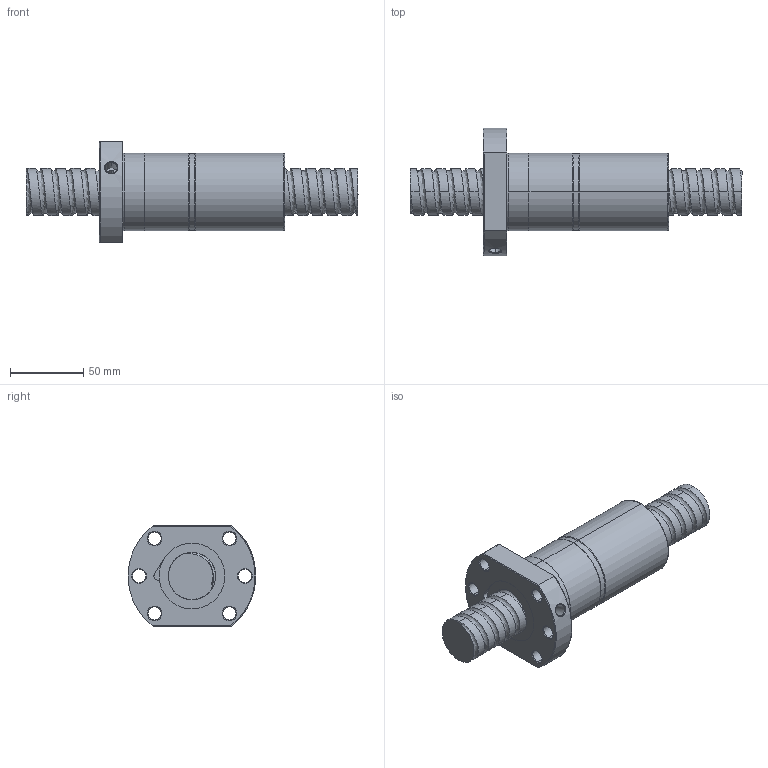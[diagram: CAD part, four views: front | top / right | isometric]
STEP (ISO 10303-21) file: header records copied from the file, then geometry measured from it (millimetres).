
FILE_DESCRIPTION (( 'STEP AP214' ), '1' );
FILE_NAME ('FDDC03210T4-C-C.STEP', '2010-07-06T03:16:46', ( 'XPAUTO' ), ( 'XPAUTO' ), 'SwSTEP 2.0', 'SolidWorks 2007', '' );
FILE_SCHEMA (( 'AUTOMOTIVE_DESIGN' ));
Length unit declared in the file: millimetre
Products named in the file (3): FDDC03210T4-C-C.sldasm-Part-2_預設; FDDC03210T4-C-C.sldasm-Part-1_預設; FDDC03210T4-C-C
Assembly tree (2 placements, depth 2):
  FDDC03210T4-C-C
    FDDC03210T4-C-C.sldasm-Part-2_預設
    FDDC03210T4-C-C.sldasm-Part-1_預設
Bounding box: 226 x 86.7 x 69 mm (x, y, z)
Volume: 386968.5 mm3; surface area: 74214.4 mm2
Topology: 2 solids, 2 shells, 149 faces, 377 edges, 237 vertices
Faces by surface type: cylinder 90, cone 24, plane 22, torus 8, bspline 5
Entity records: 31095 total; most frequent: CARTESIAN_POINT 27564, ORIENTED_EDGE 754, DIRECTION 673, EDGE_CURVE 377, AXIS2_PLACEMENT_3D 271, VERTEX_POINT 237, EDGE_LOOP 170, ADVANCED_FACE 149
